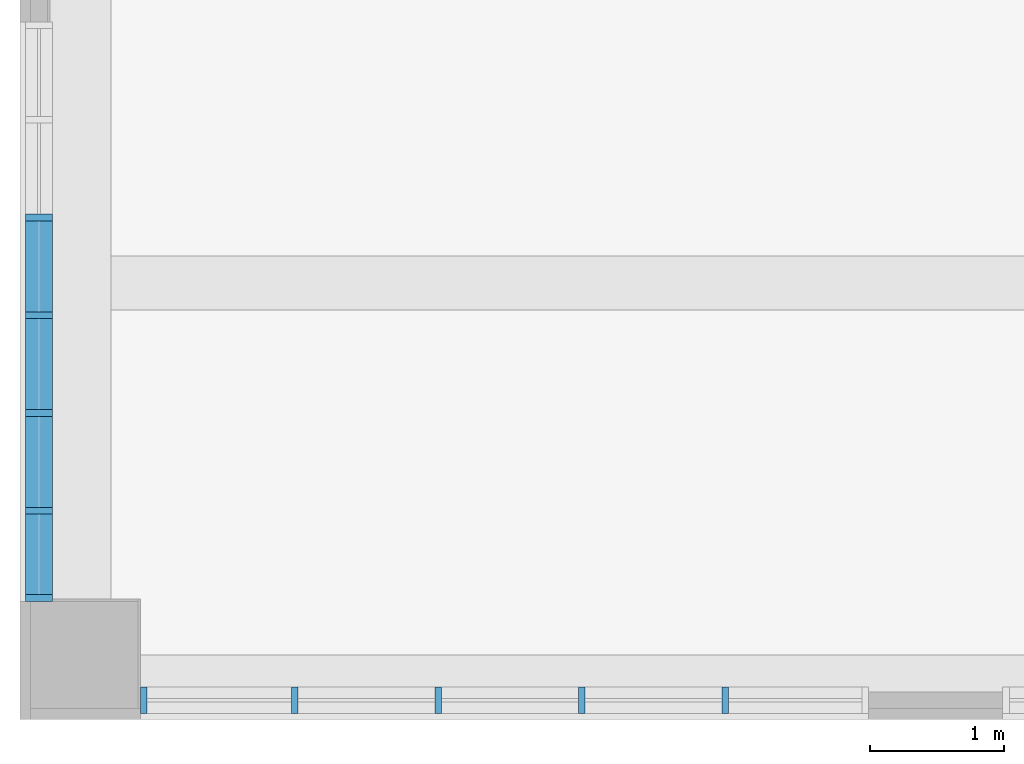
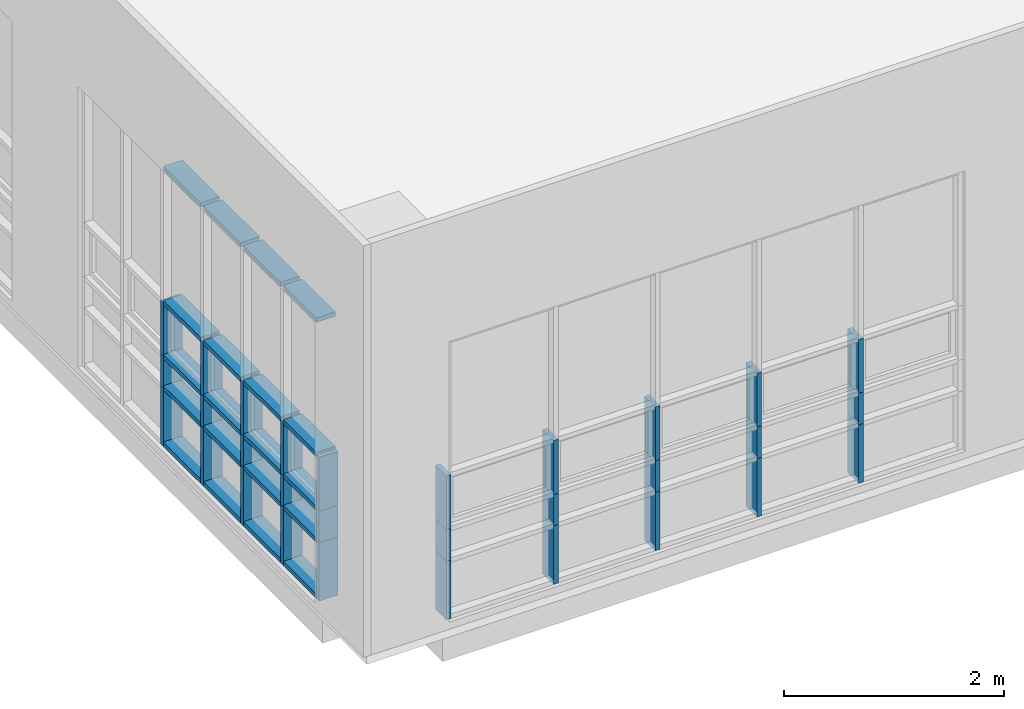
# One storey, part 12 of 74: 50 members, 2 elements without a shape of their own.
"""IFC2X3 building model written with IfcOpenShell, lengths in millimetres."""

from ifc_helpers import new_model, entity, si_unit, converted_unit, derived_unit, direction, frame, origin, origin_2d_with_axis, place, context, subcontext, project, spatial, rectangle, extrude, source, transform, mapped, material, type_object, type_shapes, element, aggregate, save


model = new_model("IFC2X3")

# Units and contexts
model_context = context("Model", 3, precision=0.01, world=origin(), true_north=direction((6.123031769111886e-17, 1.0)))
body_context = subcontext(model_context, "Body", "Model", "MODEL_VIEW")
ifc_project = project(units=[si_unit("LENGTHUNIT", "METRE", prefix="MILLI"), si_unit("AREAUNIT", "SQUARE_METRE"), si_unit("VOLUMEUNIT", "CUBIC_METRE"), converted_unit("PLANEANGLEUNIT", "DEGREE", entity("IfcRatioMeasure", 0.017453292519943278), si_unit("PLANEANGLEUNIT", "RADIAN"), dimensions=[0, 0, 0, 0, 0, 0, 0]), si_unit("MASSUNIT", "GRAM", prefix="KILO"), derived_unit("MASSDENSITYUNIT", [(si_unit("MASSUNIT", "GRAM", prefix="KILO"), 1), (si_unit("LENGTHUNIT", "METRE"), -3)]), derived_unit("MOMENTOFINERTIAUNIT", [(si_unit("LENGTHUNIT", "METRE"), 4)]), si_unit("TIMEUNIT", "SECOND"), si_unit("FREQUENCYUNIT", "HERTZ"), si_unit("THERMODYNAMICTEMPERATUREUNIT", "DEGREE_CELSIUS"), derived_unit("THERMALTRANSMITTANCEUNIT", [(si_unit("MASSUNIT", "GRAM", prefix="KILO"), 1), (si_unit("THERMODYNAMICTEMPERATUREUNIT", "KELVIN"), -1), (si_unit("TIMEUNIT", "SECOND"), -3)]), derived_unit("VOLUMETRICFLOWRATEUNIT", [(si_unit("LENGTHUNIT", "METRE"), 3), (si_unit("TIMEUNIT", "SECOND"), -1)]), derived_unit("MASSFLOWRATEUNIT", [(si_unit("MASSUNIT", "GRAM", prefix="KILO"), 1), (si_unit("TIMEUNIT", "SECOND"), -1)]), derived_unit("ROTATIONALFREQUENCYUNIT", [(si_unit("TIMEUNIT", "SECOND"), -1)]), si_unit("ELECTRICCURRENTUNIT", "AMPERE"), si_unit("ELECTRICVOLTAGEUNIT", "VOLT"), si_unit("POWERUNIT", "WATT"), si_unit("FORCEUNIT", "NEWTON", prefix="KILO"), si_unit("ILLUMINANCEUNIT", "LUX"), si_unit("LUMINOUSFLUXUNIT", "LUMEN"), si_unit("LUMINOUSINTENSITYUNIT", "CANDELA"), derived_unit("USERDEFINED", [(si_unit("MASSUNIT", "GRAM", prefix="KILO"), -1), (si_unit("LENGTHUNIT", "METRE"), -2), (si_unit("TIMEUNIT", "SECOND"), 3), (si_unit("LUMINOUSFLUXUNIT", "LUMEN"), 1)]), derived_unit("SOUNDPOWERUNIT", [(si_unit("MASSUNIT", "GRAM", prefix="KILO"), 1), (si_unit("LENGTHUNIT", "METRE"), 2), (si_unit("TIMEUNIT", "SECOND"), -3)]), derived_unit("SOUNDPRESSUREUNIT", [(si_unit("MASSUNIT", "GRAM", prefix="KILO"), 1), (si_unit("LENGTHUNIT", "METRE"), -1), (si_unit("TIMEUNIT", "SECOND"), -2)]), derived_unit("LINEARVELOCITYUNIT", [(si_unit("LENGTHUNIT", "METRE"), 1), (si_unit("TIMEUNIT", "SECOND"), -1)]), si_unit("PRESSUREUNIT", "PASCAL"), derived_unit("USERDEFINED", [(si_unit("LENGTHUNIT", "METRE"), -2), (si_unit("MASSUNIT", "GRAM", prefix="KILO"), 1), (si_unit("TIMEUNIT", "SECOND"), -2)]), derived_unit("LINEARFORCEUNIT", [(si_unit("MASSUNIT", "GRAM", prefix="KILO"), 1), (si_unit("LENGTHUNIT", "METRE"), 1), (si_unit("TIMEUNIT", "SECOND"), -2), (si_unit("LENGTHUNIT", "METRE"), -1)]), derived_unit("PLANARFORCEUNIT", [(si_unit("MASSUNIT", "GRAM", prefix="KILO"), 1), (si_unit("LENGTHUNIT", "METRE"), 1), (si_unit("TIMEUNIT", "SECOND"), -2), (si_unit("LENGTHUNIT", "METRE"), -2)])], contexts=[model_context])

# Site, building, storey
site_placement = place(None, frame((-14167.972527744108, -657.2125860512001, 0.0)))
site = spatial("IfcSite", under=ifc_project, at=site_placement, Name="Default", CompositionType="ELEMENT")
building_placement = place(site_placement, origin())
building = spatial("IfcBuilding", under=site, at=building_placement, Name="Sample Building", CompositionType="ELEMENT")
storey_placement = place(building_placement, frame((0.0, 0.0, 4800.0)))
storey = spatial("IfcBuildingStorey", under=building, at=storey_placement, Name="지상 2층", CompositionType="ELEMENT", Elevation=4800.000000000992)

# Curtain wall, members
curtain_wall_type = type_object("IfcCurtainWallType", Name="커튼월:CW112-스테인리스 스틸 커튼월", PredefinedType="NOTDEFINED")
curtain_wall_1_placement = place(storey_placement, frame((0.0, 0.0, -4800.0)))
curtain_wall_1 = element("IfcCurtainWall", 1, at=curtain_wall_1_placement, inside=storey, type_object=curtain_wall_type, Name="커튼월:CW112-스테인리스 스틸 커튼월", ObjectType="커튼월:CW112-스테인리스 스틸 커튼월")
ifc_material = material(Name="<Unnamed>")
member_type_1 = type_object("IfcMemberType", Name="직사각형 멀리언:CW200-직사각형 멀리언 50x200mm", PredefinedType="MULLION", material=ifc_material)
shared_shape_1 = source(origin(), body_context, "Body", "SweptSolid", [
    extrude(rectangle(XDim=200.0, YDim=50.0, at=origin_2d_with_axis()), frame((-25.0, 0.0, -600.0), z_axis=(0.0, 0.0, 1.0), x_axis=(0.0, -1.0, 0.0)), (0.0, 0.0, 1.0), 600.0),
])
type_shapes(member_type_1, [shared_shape_1])
member_1_placement = place(curtain_wall_1_placement, frame((14129.839654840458, 1356.7282969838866, 5880.0), z_axis=(0.0, 0.0, -1.0), x_axis=(0.0, -1.0, 0.0)))
member_1 = element("IfcMember", 2, at=member_1_placement, type_object=member_type_1, material=ifc_material, Name="직사각형 멀리언:CW200-직사각형 멀리언 50x200mm", ObjectType="직사각형 멀리언:CW200-직사각형 멀리언 50x200mm", context=body_context, shape_type="MappedRepresentation", body=[
    mapped(shared_shape_1, transform((0.0, 0.0, 0.0), scale=1.0)),
])
member_type_2 = type_object("IfcMemberType", Name="직사각형 멀리언:CW200-직사각형 멀리언 50x200mm", PredefinedType="MULLION", material=ifc_material)
shared_shape_2 = source(origin(), body_context, "Body", "SweptSolid", [
    extrude(rectangle(XDim=200.0, YDim=50.0, at=origin_2d_with_axis()), frame((-25.0, 0.0, -650.0), z_axis=(0.0, 0.0, 1.0), x_axis=(0.0, -1.0, 0.0)), (0.0, 0.0, 1.0), 650.0000000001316),
])
type_shapes(member_type_2, [shared_shape_2])
member_2_placement = place(curtain_wall_1_placement, frame((14129.839654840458, 1356.728296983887, 4880.0), z_axis=(0.0, 0.0, -1.0), x_axis=(0.0, -1.0, 0.0)))
member_2 = element("IfcMember", 3, at=member_2_placement, type_object=member_type_2, material=ifc_material, Name="직사각형 멀리언:CW200-직사각형 멀리언 50x200mm", ObjectType="직사각형 멀리언:CW200-직사각형 멀리언 50x200mm", context=body_context, shape_type="MappedRepresentation", body=[
    mapped(shared_shape_2, transform((0.0, 0.0, 0.0), scale=1.0)),
])
member_type_3 = type_object("IfcMemberType", Name="직사각형 멀리언:CW200-직사각형 멀리언 50x200mm", PredefinedType="MULLION", material=ifc_material)
shared_shape_3 = source(origin(), body_context, "Body", "SweptSolid", [
    extrude(rectangle(XDim=200.0, YDim=50.0, at=origin_2d_with_axis()), frame((0.0, 0.0, -650.0), z_axis=(0.0, 0.0, 1.0), x_axis=(0.0, -1.0, 0.0)), (0.0, 0.0, 1.0), 650.0000000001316),
])
type_shapes(member_type_3, [shared_shape_3])
member_3_placement = place(curtain_wall_1_placement, frame((14129.839654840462, 4221.141330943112, 4880.0), z_axis=(0.0, 0.0, -1.0), x_axis=(0.0, -1.0, 0.0)))
member_3 = element("IfcMember", 4, at=member_3_placement, type_object=member_type_3, material=ifc_material, Name="직사각형 멀리언:CW200-직사각형 멀리언 50x200mm", ObjectType="직사각형 멀리언:CW200-직사각형 멀리언 50x200mm", context=body_context, shape_type="MappedRepresentation", body=[
    mapped(shared_shape_3, transform((0.0, 0.0, 0.0), scale=1.0)),
])
member_4_placement = place(curtain_wall_1_placement, frame((14129.83965484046, 3491.974664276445, 4880.0), z_axis=(0.0, 0.0, -1.0), x_axis=(0.0, -1.0, 0.0)))
member_4 = element("IfcMember", 5, at=member_4_placement, type_object=member_type_3, material=ifc_material, Name="직사각형 멀리언:CW200-직사각형 멀리언 50x200mm", ObjectType="직사각형 멀리언:CW200-직사각형 멀리언 50x200mm", context=body_context, shape_type="MappedRepresentation", body=[
    mapped(shared_shape_3, transform((0.0, 0.0, 0.0), scale=1.0)),
])
member_5_placement = place(curtain_wall_1_placement, frame((14129.83965484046, 2762.8079976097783, 4880.0), z_axis=(0.0, 0.0, -1.0), x_axis=(0.0, -1.0, 0.0)))
member_5 = element("IfcMember", 6, at=member_5_placement, type_object=member_type_3, material=ifc_material, Name="직사각형 멀리언:CW200-직사각형 멀리언 50x200mm", ObjectType="직사각형 멀리언:CW200-직사각형 멀리언 50x200mm", context=body_context, shape_type="MappedRepresentation", body=[
    mapped(shared_shape_3, transform((0.0, 0.0, 0.0), scale=1.0)),
])
member_6_placement = place(curtain_wall_1_placement, frame((14129.839654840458, 2033.6413309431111, 4880.0), z_axis=(0.0, 0.0, -1.0), x_axis=(0.0, -1.0, 0.0)))
member_6 = element("IfcMember", 7, at=member_6_placement, type_object=member_type_3, material=ifc_material, Name="직사각형 멀리언:CW200-직사각형 멀리언 50x200mm", ObjectType="직사각형 멀리언:CW200-직사각형 멀리언 50x200mm", context=body_context, shape_type="MappedRepresentation", body=[
    mapped(shared_shape_3, transform((0.0, 0.0, 0.0), scale=1.0)),
])
member_type_4 = type_object("IfcMemberType", Name="직사각형 멀리언:CW200-직사각형 멀리언 50x200mm", PredefinedType="MULLION", material=ifc_material)
shared_shape_4 = source(origin(), body_context, "Body", "SweptSolid", [
    extrude(rectangle(XDim=200.0, YDim=50.0, at=origin_2d_with_axis()), frame((0.0, 0.0, -600.0), z_axis=(0.0, 0.0, 1.0), x_axis=(0.0, -1.0, 0.0)), (0.0, 0.0, 1.0), 600.0),
])
type_shapes(member_type_4, [shared_shape_4])
member_7_placement = place(curtain_wall_1_placement, frame((14129.839654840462, 4221.141330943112, 5880.0), z_axis=(0.0, 0.0, -1.0), x_axis=(0.0, -1.0, 0.0)))
member_7 = element("IfcMember", 8, at=member_7_placement, type_object=member_type_4, material=ifc_material, Name="직사각형 멀리언:CW200-직사각형 멀리언 50x200mm", ObjectType="직사각형 멀리언:CW200-직사각형 멀리언 50x200mm", context=body_context, shape_type="MappedRepresentation", body=[
    mapped(shared_shape_4, transform((0.0, 0.0, 0.0), scale=1.0)),
])
member_8_placement = place(curtain_wall_1_placement, frame((14129.83965484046, 3491.974664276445, 5880.0), z_axis=(0.0, 0.0, -1.0), x_axis=(0.0, -1.0, 0.0)))
member_8 = element("IfcMember", 9, at=member_8_placement, type_object=member_type_4, material=ifc_material, Name="직사각형 멀리언:CW200-직사각형 멀리언 50x200mm", ObjectType="직사각형 멀리언:CW200-직사각형 멀리언 50x200mm", context=body_context, shape_type="MappedRepresentation", body=[
    mapped(shared_shape_4, transform((0.0, 0.0, 0.0), scale=1.0)),
])
member_9_placement = place(curtain_wall_1_placement, frame((14129.83965484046, 2762.8079976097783, 5880.0), z_axis=(0.0, 0.0, -1.0), x_axis=(0.0, -1.0, 0.0)))
member_9 = element("IfcMember", 10, at=member_9_placement, type_object=member_type_4, material=ifc_material, Name="직사각형 멀리언:CW200-직사각형 멀리언 50x200mm", ObjectType="직사각형 멀리언:CW200-직사각형 멀리언 50x200mm", context=body_context, shape_type="MappedRepresentation", body=[
    mapped(shared_shape_4, transform((0.0, 0.0, 0.0), scale=1.0)),
])
member_10_placement = place(curtain_wall_1_placement, frame((14129.839654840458, 2033.6413309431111, 5880.0), z_axis=(0.0, 0.0, -1.0), x_axis=(0.0, -1.0, 0.0)))
member_10 = element("IfcMember", 11, at=member_10_placement, type_object=member_type_4, material=ifc_material, Name="직사각형 멀리언:CW200-직사각형 멀리언 50x200mm", ObjectType="직사각형 멀리언:CW200-직사각형 멀리언 50x200mm", context=body_context, shape_type="MappedRepresentation", body=[
    mapped(shared_shape_4, transform((0.0, 0.0, 0.0), scale=1.0)),
])
member_type_5 = type_object("IfcMemberType", Name="직사각형 멀리언:CW200-직사각형 멀리언 50x200mm", PredefinedType="MULLION", material=ifc_material)
shared_shape_5 = source(origin(), body_context, "Body", "SweptSolid", [
    extrude(rectangle(XDim=200.0, YDim=50.0, at=origin_2d_with_axis()), frame((-25.0, 0.0, -350.0), z_axis=(0.0, 0.0, 1.0), x_axis=(0.0, -1.0, 0.0)), (0.0, 0.0, 1.0), 350.00000000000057),
])
type_shapes(member_type_5, [shared_shape_5])
member_11_placement = place(curtain_wall_1_placement, frame((14129.839654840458, 1356.7282969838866, 5530.0), z_axis=(0.0, 0.0, -1.0), x_axis=(0.0, -1.0, 0.0)))
member_11 = element("IfcMember", 12, at=member_11_placement, type_object=member_type_5, material=ifc_material, Name="직사각형 멀리언:CW200-직사각형 멀리언 50x200mm", ObjectType="직사각형 멀리언:CW200-직사각형 멀리언 50x200mm", context=body_context, shape_type="MappedRepresentation", body=[
    mapped(shared_shape_5, transform((0.0, 0.0, 0.0), scale=1.0)),
])
member_type_6 = type_object("IfcMemberType", Name="직사각형 멀리언:CW200-직사각형 멀리언 50x200mm", PredefinedType="MULLION", material=ifc_material)
shared_shape_6 = source(origin(), body_context, "Body", "SweptSolid", [
    extrude(rectangle(XDim=200.0, YDim=50.0, at=origin_2d_with_axis()), frame((0.0, 0.0, -350.0), z_axis=(0.0, 0.0, 1.0), x_axis=(0.0, -1.0, 0.0)), (0.0, 0.0, 1.0), 350.00000000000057),
])
type_shapes(member_type_6, [shared_shape_6])
member_12_placement = place(curtain_wall_1_placement, frame((14129.839654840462, 4221.141330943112, 5530.0), z_axis=(0.0, 0.0, -1.0), x_axis=(0.0, -1.0, 0.0)))
member_12 = element("IfcMember", 13, at=member_12_placement, type_object=member_type_6, material=ifc_material, Name="직사각형 멀리언:CW200-직사각형 멀리언 50x200mm", ObjectType="직사각형 멀리언:CW200-직사각형 멀리언 50x200mm", context=body_context, shape_type="MappedRepresentation", body=[
    mapped(shared_shape_6, transform((0.0, 0.0, 0.0), scale=1.0)),
])
member_13_placement = place(curtain_wall_1_placement, frame((14129.83965484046, 3491.974664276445, 5530.0), z_axis=(0.0, 0.0, -1.0), x_axis=(0.0, -1.0, 0.0)))
member_13 = element("IfcMember", 14, at=member_13_placement, type_object=member_type_6, material=ifc_material, Name="직사각형 멀리언:CW200-직사각형 멀리언 50x200mm", ObjectType="직사각형 멀리언:CW200-직사각형 멀리언 50x200mm", context=body_context, shape_type="MappedRepresentation", body=[
    mapped(shared_shape_6, transform((0.0, 0.0, 0.0), scale=1.0)),
])
member_14_placement = place(curtain_wall_1_placement, frame((14129.83965484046, 2762.8079976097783, 5530.0), z_axis=(0.0, 0.0, -1.0), x_axis=(0.0, -1.0, 0.0)))
member_14 = element("IfcMember", 15, at=member_14_placement, type_object=member_type_6, material=ifc_material, Name="직사각형 멀리언:CW200-직사각형 멀리언 50x200mm", ObjectType="직사각형 멀리언:CW200-직사각형 멀리언 50x200mm", context=body_context, shape_type="MappedRepresentation", body=[
    mapped(shared_shape_6, transform((0.0, 0.0, 0.0), scale=1.0)),
])
member_15_placement = place(curtain_wall_1_placement, frame((14129.839654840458, 2033.6413309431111, 5530.0), z_axis=(0.0, 0.0, -1.0), x_axis=(0.0, -1.0, 0.0)))
member_15 = element("IfcMember", 16, at=member_15_placement, type_object=member_type_6, material=ifc_material, Name="직사각형 멀리언:CW200-직사각형 멀리언 50x200mm", ObjectType="직사각형 멀리언:CW200-직사각형 멀리언 50x200mm", context=body_context, shape_type="MappedRepresentation", body=[
    mapped(shared_shape_6, transform((0.0, 0.0, 0.0), scale=1.0)),
])

curtain_wall_2_placement = place(storey_placement, frame((0.0, 0.0, -4800.0)))
curtain_wall_2 = element("IfcCurtainWall", 17, at=curtain_wall_2_placement, inside=storey, type_object=curtain_wall_type, Name="커튼월:CW112-스테인리스 스틸 커튼월", ObjectType="커튼월:CW112-스테인리스 스틸 커튼월")
member_type_7 = type_object("IfcMemberType", Name="직사각형 멀리언:CW200-직사각형 멀리언 50x200mm", PredefinedType="MULLION", material=ifc_material)
shared_shape_7 = source(origin(), body_context, "Body", "SweptSolid", [
    extrude(rectangle(XDim=200.0, YDim=50.0, at=origin_2d_with_axis()), frame((0.0, 0.0, -650.0), z_axis=(0.0, 0.0, 1.0), x_axis=(0.0, -1.0, 0.0)), (0.0, 0.0, 1.0), 650.0000000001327),
])
type_shapes(member_type_7, [shared_shape_7])
member_16_placement = place(curtain_wall_2_placement, frame((16037.998485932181, 619.7122951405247, 4880.0), z_axis=(0.0, 0.0, -1.0), x_axis=(1.0, 0.0, 0.0)))
member_16 = element("IfcMember", 18, at=member_16_placement, type_object=member_type_7, material=ifc_material, Name="직사각형 멀리언:CW200-직사각형 멀리언 50x200mm", ObjectType="직사각형 멀리언:CW200-직사각형 멀리언 50x200mm", context=body_context, shape_type="MappedRepresentation", body=[
    mapped(shared_shape_7, transform((0.0, 0.0, 0.0), scale=1.0)),
])
member_17_placement = place(curtain_wall_2_placement, frame((17107.99848593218, 619.7122951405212, 4880.0), z_axis=(0.0, 0.0, -1.0), x_axis=(1.0, 0.0, 0.0)))
member_17 = element("IfcMember", 19, at=member_17_placement, type_object=member_type_7, material=ifc_material, Name="직사각형 멀리언:CW200-직사각형 멀리언 50x200mm", ObjectType="직사각형 멀리언:CW200-직사각형 멀리언 50x200mm", context=body_context, shape_type="MappedRepresentation", body=[
    mapped(shared_shape_7, transform((0.0, 0.0, 0.0), scale=1.0)),
])
member_18_placement = place(curtain_wall_2_placement, frame((18177.99848593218, 619.7122951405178, 4880.0), z_axis=(0.0, 0.0, -1.0), x_axis=(1.0, 0.0, 0.0)))
member_18 = element("IfcMember", 20, at=member_18_placement, type_object=member_type_7, material=ifc_material, Name="직사각형 멀리언:CW200-직사각형 멀리언 50x200mm", ObjectType="직사각형 멀리언:CW200-직사각형 멀리언 50x200mm", context=body_context, shape_type="MappedRepresentation", body=[
    mapped(shared_shape_7, transform((0.0, 0.0, 0.0), scale=1.0)),
])
member_19_placement = place(curtain_wall_2_placement, frame((19247.99848593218, 619.7122951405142, 4880.0), z_axis=(0.0, 0.0, -1.0), x_axis=(1.0, 0.0, 0.0)))
member_19 = element("IfcMember", 21, at=member_19_placement, type_object=member_type_7, material=ifc_material, Name="직사각형 멀리언:CW200-직사각형 멀리언 50x200mm", ObjectType="직사각형 멀리언:CW200-직사각형 멀리언 50x200mm", context=body_context, shape_type="MappedRepresentation", body=[
    mapped(shared_shape_7, transform((0.0, 0.0, 0.0), scale=1.0)),
])
member_type_8 = type_object("IfcMemberType", Name="직사각형 멀리언:CW200-직사각형 멀리언 50x200mm", PredefinedType="MULLION", material=ifc_material)
shared_shape_8 = source(origin(), body_context, "Body", "SweptSolid", [
    extrude(rectangle(XDim=200.0, YDim=50.0, at=origin_2d_with_axis()), frame((-25.0, 0.0, -600.0), z_axis=(0.0, 0.0, 1.0), x_axis=(0.0, -1.0, 0.0)), (0.0, 0.0, 1.0), 600.0),
])
type_shapes(member_type_8, [shared_shape_8])
member_20_placement = place(curtain_wall_2_placement, frame((14885.972454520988, 619.7122951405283, 6480.0), z_axis=(0.0, 0.0, 1.0), x_axis=(-1.0, 0.0, 0.0)))
member_20 = element("IfcMember", 22, at=member_20_placement, type_object=member_type_8, material=ifc_material, Name="직사각형 멀리언:CW200-직사각형 멀리언 50x200mm", ObjectType="직사각형 멀리언:CW200-직사각형 멀리언 50x200mm", context=body_context, shape_type="MappedRepresentation", body=[
    mapped(shared_shape_8, transform((0.0, 0.0, 0.0), scale=1.0)),
])
member_type_9 = type_object("IfcMemberType", Name="직사각형 멀리언:CW200-직사각형 멀리언 50x200mm", PredefinedType="MULLION", material=ifc_material)
shared_shape_9 = source(origin(), body_context, "Body", "SweptSolid", [
    extrude(rectangle(XDim=200.0, YDim=50.0, at=origin_2d_with_axis()), frame((-25.0, 0.0, -350.0), z_axis=(0.0, 0.0, 1.0), x_axis=(0.0, -1.0, 0.0)), (0.0, 0.0, 1.0), 349.9999999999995),
])
type_shapes(member_type_9, [shared_shape_9])
member_21_placement = place(curtain_wall_2_placement, frame((14885.972454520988, 619.7122951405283, 5880.0), z_axis=(0.0, 0.0, 1.0), x_axis=(-1.0, 0.0, 0.0)))
member_21 = element("IfcMember", 23, at=member_21_placement, type_object=member_type_9, material=ifc_material, Name="직사각형 멀리언:CW200-직사각형 멀리언 50x200mm", ObjectType="직사각형 멀리언:CW200-직사각형 멀리언 50x200mm", context=body_context, shape_type="MappedRepresentation", body=[
    mapped(shared_shape_9, transform((0.0, 0.0, 0.0), scale=1.0)),
])
member_type_10 = type_object("IfcMemberType", Name="직사각형 멀리언:CW200-직사각형 멀리언 50x200mm", PredefinedType="MULLION", material=ifc_material)
shared_shape_10 = source(origin(), body_context, "Body", "SweptSolid", [
    extrude(rectangle(XDim=200.0, YDim=50.0, at=origin_2d_with_axis()), frame((0.0, 0.0, -600.0), z_axis=(0.0, 0.0, 1.0), x_axis=(0.0, -1.0, 0.0)), (0.0, 0.0, 1.0), 600.0),
])
type_shapes(member_type_10, [shared_shape_10])
member_22_placement = place(curtain_wall_2_placement, frame((16037.998485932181, 619.7122951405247, 5880.0), z_axis=(0.0, 0.0, -1.0), x_axis=(1.0, 0.0, 0.0)))
member_22 = element("IfcMember", 24, at=member_22_placement, type_object=member_type_10, material=ifc_material, Name="직사각형 멀리언:CW200-직사각형 멀리언 50x200mm", ObjectType="직사각형 멀리언:CW200-직사각형 멀리언 50x200mm", context=body_context, shape_type="MappedRepresentation", body=[
    mapped(shared_shape_10, transform((0.0, 0.0, 0.0), scale=1.0)),
])
member_23_placement = place(curtain_wall_2_placement, frame((17107.99848593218, 619.7122951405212, 5880.0), z_axis=(0.0, 0.0, -1.0), x_axis=(1.0, 0.0, 0.0)))
member_23 = element("IfcMember", 25, at=member_23_placement, type_object=member_type_10, material=ifc_material, Name="직사각형 멀리언:CW200-직사각형 멀리언 50x200mm", ObjectType="직사각형 멀리언:CW200-직사각형 멀리언 50x200mm", context=body_context, shape_type="MappedRepresentation", body=[
    mapped(shared_shape_10, transform((0.0, 0.0, 0.0), scale=1.0)),
])
member_24_placement = place(curtain_wall_2_placement, frame((18177.99848593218, 619.7122951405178, 5880.0), z_axis=(0.0, 0.0, -1.0), x_axis=(1.0, 0.0, 0.0)))
member_24 = element("IfcMember", 26, at=member_24_placement, type_object=member_type_10, material=ifc_material, Name="직사각형 멀리언:CW200-직사각형 멀리언 50x200mm", ObjectType="직사각형 멀리언:CW200-직사각형 멀리언 50x200mm", context=body_context, shape_type="MappedRepresentation", body=[
    mapped(shared_shape_10, transform((0.0, 0.0, 0.0), scale=1.0)),
])
member_25_placement = place(curtain_wall_2_placement, frame((19247.99848593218, 619.7122951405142, 5880.0), z_axis=(0.0, 0.0, -1.0), x_axis=(1.0, 0.0, 0.0)))
member_25 = element("IfcMember", 27, at=member_25_placement, type_object=member_type_10, material=ifc_material, Name="직사각형 멀리언:CW200-직사각형 멀리언 50x200mm", ObjectType="직사각형 멀리언:CW200-직사각형 멀리언 50x200mm", context=body_context, shape_type="MappedRepresentation", body=[
    mapped(shared_shape_10, transform((0.0, 0.0, 0.0), scale=1.0)),
])
member_type_11 = type_object("IfcMemberType", Name="직사각형 멀리언:CW200-직사각형 멀리언 50x200mm", PredefinedType="MULLION", material=ifc_material)
shared_shape_11 = source(origin(), body_context, "Body", "SweptSolid", [
    extrude(rectangle(XDim=200.0, YDim=50.0, at=origin_2d_with_axis()), frame((-25.0, 0.0, -650.0), z_axis=(0.0, 0.0, 1.0), x_axis=(0.0, -1.0, 0.0)), (0.0, 0.0, 1.0), 650.0000000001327),
])
type_shapes(member_type_11, [shared_shape_11])
member_26_placement = place(curtain_wall_2_placement, frame((14885.972454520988, 619.7122951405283, 5530.0), z_axis=(0.0, 0.0, 1.0), x_axis=(-1.0, 0.0, 0.0)))
member_26 = element("IfcMember", 28, at=member_26_placement, type_object=member_type_11, material=ifc_material, Name="직사각형 멀리언:CW200-직사각형 멀리언 50x200mm", ObjectType="직사각형 멀리언:CW200-직사각형 멀리언 50x200mm", context=body_context, shape_type="MappedRepresentation", body=[
    mapped(shared_shape_11, transform((0.0, 0.0, 0.0), scale=1.0)),
])
member_type_12 = type_object("IfcMemberType", Name="직사각형 멀리언:CW200-직사각형 멀리언 50x200mm", PredefinedType="MULLION", material=ifc_material)
shared_shape_12 = source(origin(), body_context, "Body", "SweptSolid", [
    extrude(rectangle(XDim=200.0, YDim=50.0, at=origin_2d_with_axis()), frame((0.0, 0.0, -350.0), z_axis=(0.0, 0.0, 1.0), x_axis=(0.0, -1.0, 0.0)), (0.0, 0.0, 1.0), 349.9999999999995),
])
type_shapes(member_type_12, [shared_shape_12])
member_27_placement = place(curtain_wall_2_placement, frame((16037.998485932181, 619.7122951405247, 5530.0), z_axis=(0.0, 0.0, -1.0), x_axis=(1.0, 0.0, 0.0)))
member_27 = element("IfcMember", 29, at=member_27_placement, type_object=member_type_12, material=ifc_material, Name="직사각형 멀리언:CW200-직사각형 멀리언 50x200mm", ObjectType="직사각형 멀리언:CW200-직사각형 멀리언 50x200mm", context=body_context, shape_type="MappedRepresentation", body=[
    mapped(shared_shape_12, transform((0.0, 0.0, 0.0), scale=1.0)),
])
member_28_placement = place(curtain_wall_2_placement, frame((17107.99848593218, 619.7122951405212, 5530.0), z_axis=(0.0, 0.0, -1.0), x_axis=(1.0, 0.0, 0.0)))
member_28 = element("IfcMember", 30, at=member_28_placement, type_object=member_type_12, material=ifc_material, Name="직사각형 멀리언:CW200-직사각형 멀리언 50x200mm", ObjectType="직사각형 멀리언:CW200-직사각형 멀리언 50x200mm", context=body_context, shape_type="MappedRepresentation", body=[
    mapped(shared_shape_12, transform((0.0, 0.0, 0.0), scale=1.0)),
])
member_29_placement = place(curtain_wall_2_placement, frame((18177.99848593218, 619.7122951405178, 5530.0), z_axis=(0.0, 0.0, -1.0), x_axis=(1.0, 0.0, 0.0)))
member_29 = element("IfcMember", 31, at=member_29_placement, type_object=member_type_12, material=ifc_material, Name="직사각형 멀리언:CW200-직사각형 멀리언 50x200mm", ObjectType="직사각형 멀리언:CW200-직사각형 멀리언 50x200mm", context=body_context, shape_type="MappedRepresentation", body=[
    mapped(shared_shape_12, transform((0.0, 0.0, 0.0), scale=1.0)),
])
member_30_placement = place(curtain_wall_2_placement, frame((19247.99848593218, 619.7122951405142, 5530.0), z_axis=(0.0, 0.0, -1.0), x_axis=(1.0, 0.0, 0.0)))
member_30 = element("IfcMember", 32, at=member_30_placement, type_object=member_type_12, material=ifc_material, Name="직사각형 멀리언:CW200-직사각형 멀리언 50x200mm", ObjectType="직사각형 멀리언:CW200-직사각형 멀리언 50x200mm", context=body_context, shape_type="MappedRepresentation", body=[
    mapped(shared_shape_12, transform((0.0, 0.0, 0.0), scale=1.0)),
])
aggregate(curtain_wall_2, [member_16, member_17, member_18, member_19, member_20, member_21, member_22, member_23, member_24, member_25, member_26, member_27, member_28, member_29, member_30])

# Member
member_type_13 = type_object("IfcMemberType", Name="직사각형 멀리언:CW200-직사각형 멀리언 50x200mm", PredefinedType="MULLION", material=ifc_material)
shared_shape_13 = source(origin(), body_context, "Body", "SweptSolid", [
    extrude(rectangle(XDim=200.0, YDim=50.0, at=origin_2d_with_axis()), frame((-25.0, 0.0, -601.9130339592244), z_axis=(0.0, 0.0, 1.0), x_axis=(0.0, -1.0, 0.0)), (0.0, 0.0, 1.0), 601.9130339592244),
])
type_shapes(member_type_13, [shared_shape_13])
member_31_placement = place(curtain_wall_1_placement, frame((14129.839654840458, 1406.728296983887, 8000.0), z_axis=(0.0, -1.0, 0.0), x_axis=(0.0, 0.0, 1.0)))
member_31 = element("IfcMember", 33, at=member_31_placement, type_object=member_type_13, material=ifc_material, Name="직사각형 멀리언:CW200-직사각형 멀리언 50x200mm", ObjectType="직사각형 멀리언:CW200-직사각형 멀리언 50x200mm", context=body_context, shape_type="MappedRepresentation", body=[
    mapped(shared_shape_13, transform((0.0, 0.0, 0.0), scale=1.0)),
])

member_type_14 = type_object("IfcMemberType", Name="직사각형 멀리언:CW200-직사각형 멀리언 50x200mm", PredefinedType="MULLION", material=ifc_material)
shared_shape_14 = source(origin(), body_context, "Body", "SweptSolid", [
    extrude(rectangle(XDim=200.0, YDim=50.0, at=origin_2d_with_axis()), frame((-25.0, 0.0, -679.1666666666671), z_axis=(0.0, 0.0, 1.0), x_axis=(0.0, -1.0, 0.0)), (0.0, 0.0, 1.0), 679.1666666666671),
])
type_shapes(member_type_14, [shared_shape_14])
member_32_placement = place(curtain_wall_1_placement, frame((14129.839654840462, 4196.141330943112, 4880.0), z_axis=(0.0, 1.0, 0.0), x_axis=(0.0, 0.0, -1.0)))
member_32 = element("IfcMember", 34, at=member_32_placement, type_object=member_type_14, material=ifc_material, Name="직사각형 멀리언:CW200-직사각형 멀리언 50x200mm", ObjectType="직사각형 멀리언:CW200-직사각형 멀리언 50x200mm", context=body_context, shape_type="MappedRepresentation", body=[
    mapped(shared_shape_14, transform((0.0, 0.0, 0.0), scale=1.0)),
])

member_33_placement = place(curtain_wall_1_placement, frame((14129.83965484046, 3466.9746642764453, 4880.0), z_axis=(0.0, 1.0, 0.0), x_axis=(0.0, 0.0, -1.0)))
member_33 = element("IfcMember", 35, at=member_33_placement, type_object=member_type_14, material=ifc_material, Name="직사각형 멀리언:CW200-직사각형 멀리언 50x200mm", ObjectType="직사각형 멀리언:CW200-직사각형 멀리언 50x200mm", context=body_context, shape_type="MappedRepresentation", body=[
    mapped(shared_shape_14, transform((0.0, 0.0, 0.0), scale=1.0)),
])

member_34_placement = place(curtain_wall_1_placement, frame((14129.83965484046, 2737.807997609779, 4880.0), z_axis=(0.0, 1.0, 0.0), x_axis=(0.0, 0.0, -1.0)))
member_34 = element("IfcMember", 36, at=member_34_placement, type_object=member_type_14, material=ifc_material, Name="직사각형 멀리언:CW200-직사각형 멀리언 50x200mm", ObjectType="직사각형 멀리언:CW200-직사각형 멀리언 50x200mm", context=body_context, shape_type="MappedRepresentation", body=[
    mapped(shared_shape_14, transform((0.0, 0.0, 0.0), scale=1.0)),
])

member_type_15 = type_object("IfcMemberType", Name="직사각형 멀리언:CW200-직사각형 멀리언 50x200mm", PredefinedType="MULLION", material=ifc_material)
shared_shape_15 = source(origin(), body_context, "Body", "SweptSolid", [
    extrude(rectangle(XDim=200.0, YDim=50.0, at=origin_2d_with_axis()), frame((-25.0, 0.0, -679.1666666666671), z_axis=(0.0, 0.0, 1.0), x_axis=(0.0, -1.0, 0.0)), (0.0, 0.0, 1.0), 679.1666666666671),
])
type_shapes(member_type_15, [shared_shape_15])
member_35_placement = place(curtain_wall_1_placement, frame((14129.83965484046, 3516.974664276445, 8000.0), z_axis=(0.0, -1.0, 0.0), x_axis=(0.0, 0.0, 1.0)))
member_35 = element("IfcMember", 37, at=member_35_placement, type_object=member_type_15, material=ifc_material, Name="직사각형 멀리언:CW200-직사각형 멀리언 50x200mm", ObjectType="직사각형 멀리언:CW200-직사각형 멀리언 50x200mm", context=body_context, shape_type="MappedRepresentation", body=[
    mapped(shared_shape_15, transform((0.0, 0.0, 0.0), scale=1.0)),
])

member_36_placement = place(curtain_wall_1_placement, frame((14129.83965484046, 2787.807997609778, 8000.0), z_axis=(0.0, -1.0, 0.0), x_axis=(0.0, 0.0, 1.0)))
member_36 = element("IfcMember", 38, at=member_36_placement, type_object=member_type_15, material=ifc_material, Name="직사각형 멀리언:CW200-직사각형 멀리언 50x200mm", ObjectType="직사각형 멀리언:CW200-직사각형 멀리언 50x200mm", context=body_context, shape_type="MappedRepresentation", body=[
    mapped(shared_shape_15, transform((0.0, 0.0, 0.0), scale=1.0)),
])

member_37_placement = place(curtain_wall_1_placement, frame((14129.839654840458, 2058.6413309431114, 8000.0), z_axis=(0.0, -1.0, 0.0), x_axis=(0.0, 0.0, 1.0)))
member_37 = element("IfcMember", 39, at=member_37_placement, type_object=member_type_15, material=ifc_material, Name="직사각형 멀리언:CW200-직사각형 멀리언 50x200mm", ObjectType="직사각형 멀리언:CW200-직사각형 멀리언 50x200mm", context=body_context, shape_type="MappedRepresentation", body=[
    mapped(shared_shape_15, transform((0.0, 0.0, 0.0), scale=1.0)),
])

member_type_16 = type_object("IfcMemberType", Name="직사각형 멀리언:CW200-직사각형 멀리언 50x200mm", PredefinedType="MULLION", material=ifc_material)
shared_shape_16 = source(origin(), body_context, "Body", "SweptSolid", [
    extrude(rectangle(XDim=200.0, YDim=50.0, at=origin_2d_with_axis()), frame((-25.0, 0.0, -601.9130339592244), z_axis=(0.0, 0.0, 1.0), x_axis=(0.0, -1.0, 0.0)), (0.0, 0.0, 1.0), 601.9130339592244),
])
type_shapes(member_type_16, [shared_shape_16])
member_38_placement = place(curtain_wall_1_placement, frame((14129.839654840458, 2008.6413309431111, 4880.0), z_axis=(0.0, 1.0, 0.0), x_axis=(0.0, 0.0, -1.0)))
member_38 = element("IfcMember", 40, at=member_38_placement, type_object=member_type_16, material=ifc_material, Name="직사각형 멀리언:CW200-직사각형 멀리언 50x200mm", ObjectType="직사각형 멀리언:CW200-직사각형 멀리언 50x200mm", context=body_context, shape_type="MappedRepresentation", body=[
    mapped(shared_shape_16, transform((0.0, 0.0, 0.0), scale=1.0)),
])

member_type_17 = type_object("IfcMemberType", Name="직사각형 멀리언:CW200-직사각형 멀리언 50x200mm", PredefinedType="MULLION", material=ifc_material)
shared_shape_17 = source(origin(), body_context, "Body", "SweptSolid", [
    extrude(rectangle(XDim=200.0, YDim=50.0, at=origin_2d_with_axis()), frame((0.0, 0.0, -679.1666666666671), z_axis=(0.0, 0.0, 1.0), x_axis=(0.0, -1.0, 0.0)), (0.0, 0.0, 1.0), 679.1666666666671),
])
type_shapes(member_type_17, [shared_shape_17])
member_39_placement = place(curtain_wall_1_placement, frame((14129.83965484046, 3516.974664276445, 6480.0), z_axis=(0.0, -1.0, 0.0), x_axis=(0.0, 0.0, 1.0)))
member_39 = element("IfcMember", 41, at=member_39_placement, type_object=member_type_17, material=ifc_material, Name="직사각형 멀리언:CW200-직사각형 멀리언 50x200mm", ObjectType="직사각형 멀리언:CW200-직사각형 멀리언 50x200mm", context=body_context, shape_type="MappedRepresentation", body=[
    mapped(shared_shape_17, transform((0.0, 0.0, 0.0), scale=1.0)),
])

member_40_placement = place(curtain_wall_1_placement, frame((14129.83965484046, 2787.807997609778, 6480.0), z_axis=(0.0, -1.0, 0.0), x_axis=(0.0, 0.0, 1.0)))
member_40 = element("IfcMember", 42, at=member_40_placement, type_object=member_type_17, material=ifc_material, Name="직사각형 멀리언:CW200-직사각형 멀리언 50x200mm", ObjectType="직사각형 멀리언:CW200-직사각형 멀리언 50x200mm", context=body_context, shape_type="MappedRepresentation", body=[
    mapped(shared_shape_17, transform((0.0, 0.0, 0.0), scale=1.0)),
])

member_41_placement = place(curtain_wall_1_placement, frame((14129.839654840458, 2058.641330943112, 6480.0), z_axis=(0.0, -1.0, 0.0), x_axis=(0.0, 0.0, 1.0)))
member_41 = element("IfcMember", 43, at=member_41_placement, type_object=member_type_17, material=ifc_material, Name="직사각형 멀리언:CW200-직사각형 멀리언 50x200mm", ObjectType="직사각형 멀리언:CW200-직사각형 멀리언 50x200mm", context=body_context, shape_type="MappedRepresentation", body=[
    mapped(shared_shape_17, transform((0.0, 0.0, 0.0), scale=1.0)),
])

member_42_placement = place(curtain_wall_1_placement, frame((14129.83965484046, 3516.974664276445, 5880.0), z_axis=(0.0, -1.0, 0.0), x_axis=(0.0, 0.0, 1.0)))
member_42 = element("IfcMember", 44, at=member_42_placement, type_object=member_type_17, material=ifc_material, Name="직사각형 멀리언:CW200-직사각형 멀리언 50x200mm", ObjectType="직사각형 멀리언:CW200-직사각형 멀리언 50x200mm", context=body_context, shape_type="MappedRepresentation", body=[
    mapped(shared_shape_17, transform((0.0, 0.0, 0.0), scale=1.0)),
])

member_43_placement = place(curtain_wall_1_placement, frame((14129.83965484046, 2787.807997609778, 5880.0), z_axis=(0.0, -1.0, 0.0), x_axis=(0.0, 0.0, 1.0)))
member_43 = element("IfcMember", 45, at=member_43_placement, type_object=member_type_17, material=ifc_material, Name="직사각형 멀리언:CW200-직사각형 멀리언 50x200mm", ObjectType="직사각형 멀리언:CW200-직사각형 멀리언 50x200mm", context=body_context, shape_type="MappedRepresentation", body=[
    mapped(shared_shape_17, transform((0.0, 0.0, 0.0), scale=1.0)),
])

member_44_placement = place(curtain_wall_1_placement, frame((14129.839654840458, 2058.6413309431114, 5880.0), z_axis=(0.0, -1.0, 0.0), x_axis=(0.0, 0.0, 1.0)))
member_44 = element("IfcMember", 46, at=member_44_placement, type_object=member_type_17, material=ifc_material, Name="직사각형 멀리언:CW200-직사각형 멀리언 50x200mm", ObjectType="직사각형 멀리언:CW200-직사각형 멀리언 50x200mm", context=body_context, shape_type="MappedRepresentation", body=[
    mapped(shared_shape_17, transform((0.0, 0.0, 0.0), scale=1.0)),
])

member_45_placement = place(curtain_wall_1_placement, frame((14129.83965484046, 3516.974664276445, 5530.0), z_axis=(0.0, -1.0, 0.0), x_axis=(0.0, 0.0, 1.0)))
member_45 = element("IfcMember", 47, at=member_45_placement, type_object=member_type_17, material=ifc_material, Name="직사각형 멀리언:CW200-직사각형 멀리언 50x200mm", ObjectType="직사각형 멀리언:CW200-직사각형 멀리언 50x200mm", context=body_context, shape_type="MappedRepresentation", body=[
    mapped(shared_shape_17, transform((0.0, 0.0, 0.0), scale=1.0)),
])

member_46_placement = place(curtain_wall_1_placement, frame((14129.83965484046, 2787.807997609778, 5530.0), z_axis=(0.0, -1.0, 0.0), x_axis=(0.0, 0.0, 1.0)))
member_46 = element("IfcMember", 48, at=member_46_placement, type_object=member_type_17, material=ifc_material, Name="직사각형 멀리언:CW200-직사각형 멀리언 50x200mm", ObjectType="직사각형 멀리언:CW200-직사각형 멀리언 50x200mm", context=body_context, shape_type="MappedRepresentation", body=[
    mapped(shared_shape_17, transform((0.0, 0.0, 0.0), scale=1.0)),
])

member_47_placement = place(curtain_wall_1_placement, frame((14129.839654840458, 2058.6413309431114, 5530.0), z_axis=(0.0, -1.0, 0.0), x_axis=(0.0, 0.0, 1.0)))
member_47 = element("IfcMember", 49, at=member_47_placement, type_object=member_type_17, material=ifc_material, Name="직사각형 멀리언:CW200-직사각형 멀리언 50x200mm", ObjectType="직사각형 멀리언:CW200-직사각형 멀리언 50x200mm", context=body_context, shape_type="MappedRepresentation", body=[
    mapped(shared_shape_17, transform((0.0, 0.0, 0.0), scale=1.0)),
])

member_type_18 = type_object("IfcMemberType", Name="직사각형 멀리언:CW200-직사각형 멀리언 50x200mm", PredefinedType="MULLION", material=ifc_material)
shared_shape_18 = source(origin(), body_context, "Body", "SweptSolid", [
    extrude(rectangle(XDim=200.0, YDim=50.0, at=origin_2d_with_axis()), frame((0.0, 0.0, -601.9130339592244), z_axis=(0.0, 0.0, 1.0), x_axis=(0.0, -1.0, 0.0)), (0.0, 0.0, 1.0), 601.9130339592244),
])
type_shapes(member_type_18, [shared_shape_18])
member_48_placement = place(curtain_wall_1_placement, frame((14129.839654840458, 1406.728296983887, 6480.0), z_axis=(0.0, -1.0, 0.0), x_axis=(0.0, 0.0, 1.0)))
member_48 = element("IfcMember", 50, at=member_48_placement, type_object=member_type_18, material=ifc_material, Name="직사각형 멀리언:CW200-직사각형 멀리언 50x200mm", ObjectType="직사각형 멀리언:CW200-직사각형 멀리언 50x200mm", context=body_context, shape_type="MappedRepresentation", body=[
    mapped(shared_shape_18, transform((0.0, 0.0, 0.0), scale=1.0)),
])

member_49_placement = place(curtain_wall_1_placement, frame((14129.839654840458, 1406.7282969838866, 5880.0), z_axis=(0.0, -1.0, 0.0), x_axis=(0.0, 0.0, 1.0)))
member_49 = element("IfcMember", 51, at=member_49_placement, type_object=member_type_18, material=ifc_material, Name="직사각형 멀리언:CW200-직사각형 멀리언 50x200mm", ObjectType="직사각형 멀리언:CW200-직사각형 멀리언 50x200mm", context=body_context, shape_type="MappedRepresentation", body=[
    mapped(shared_shape_18, transform((0.0, 0.0, 0.0), scale=1.0)),
])

member_50_placement = place(curtain_wall_1_placement, frame((14129.839654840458, 1406.7282969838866, 5530.0), z_axis=(0.0, -1.0, 0.0), x_axis=(0.0, 0.0, 1.0)))
member_50 = element("IfcMember", 52, at=member_50_placement, type_object=member_type_18, material=ifc_material, Name="직사각형 멀리언:CW200-직사각형 멀리언 50x200mm", ObjectType="직사각형 멀리언:CW200-직사각형 멀리언 50x200mm", context=body_context, shape_type="MappedRepresentation", body=[
    mapped(shared_shape_18, transform((0.0, 0.0, 0.0), scale=1.0)),
])

aggregate(curtain_wall_1, [member_31, member_2, member_32, member_3, member_35, member_33, member_4, member_36, member_34, member_5, member_37, member_38, member_6, member_39, member_40, member_41, member_48, member_1, member_42, member_43, member_44, member_49, member_7, member_8, member_9, member_10, member_11, member_45, member_46, member_47, member_50, member_12, member_13, member_14, member_15])

save(model, "model.ifc")
